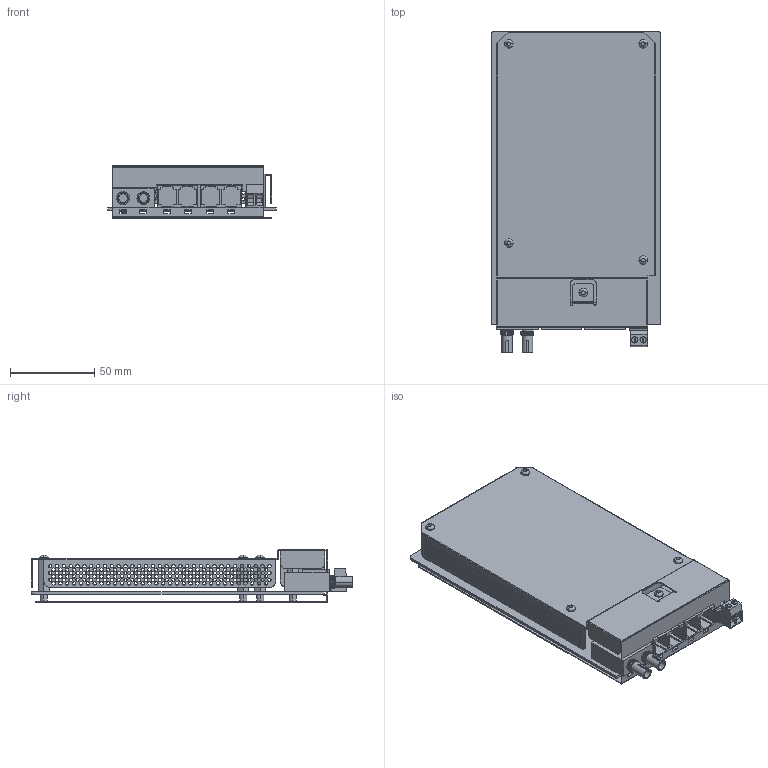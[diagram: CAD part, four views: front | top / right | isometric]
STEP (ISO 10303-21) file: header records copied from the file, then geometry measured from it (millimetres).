
FILE_DESCRIPTION( ( 'Cobalt' ), 'Build 889' );
FILE_NAME( '/Users/lisaweeks/Desktop/Fiber Cards and Housings/Fiber Cards/4 Ch. POTS Mux/Cobalt/4 CH. POTS MUX Assembly.stp', ' ', ( 'Lisa Weeks' ), ( 'RLH Industries' ), 'ACIS Interop', 'Ashlar, Incorporated', 'Cobalt BY ASHLAR, INCORPORATED' );
FILE_SCHEMA( ( 'automotive_design' ) );
Length unit declared in the file: inch
Products named in the file (47): 1; 2; 3; 4; 5; 6; 7; 8; 9; 10; 11; 12; 13; 14; 15; 16; 17; 18; 19; 20; 21; 22; 23; 24; 25; 26; 27; 28; 29; 30; 31; 32; 33; 34; 35; 36; 37; 38; 39; 40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
Bounding box: 100.08 x 190.88 x 31.24 mm (x, y, z)
Volume: 55730.8 mm3; surface area: 134998.2 mm2
Topology: 46 solids, 47 shells, 2158 faces, 5681 edges, 3649 vertices
Faces by surface type: cylinder 1211, plane 527, cone 410, torus 10
Entity records: 134899 total; most frequent: DIRECTION 12939, CARTESIAN_POINT 11908, STYLED_ITEM 11536, PRESENTATION_STYLE_ASSIGNMENT 11536, COLOUR_RGB 11536, ORIENTED_EDGE 11362, EDGE_CURVE 5681, CURVE_STYLE 5681
